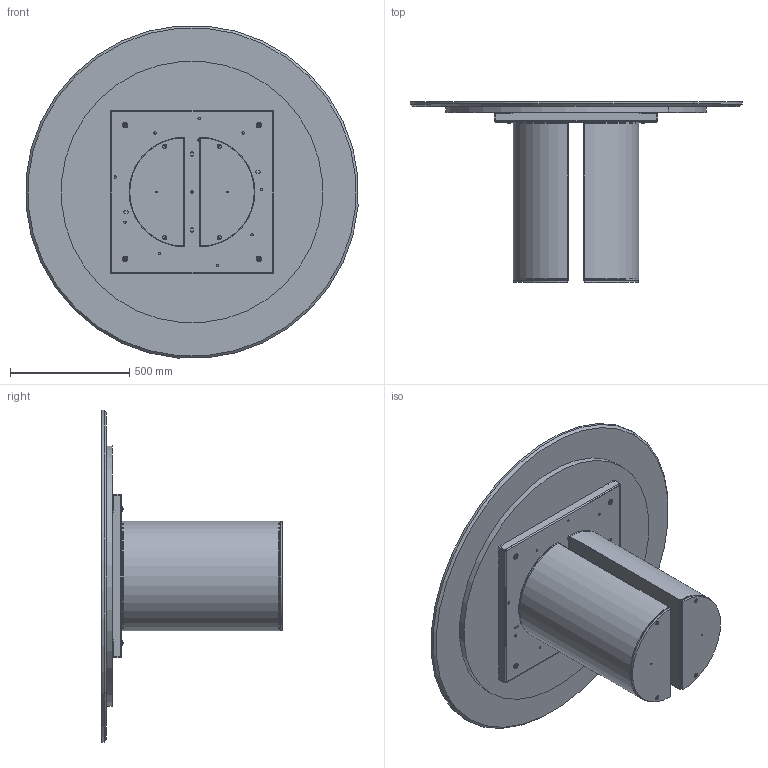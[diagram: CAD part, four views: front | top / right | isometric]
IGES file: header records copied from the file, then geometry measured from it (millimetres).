
Start section: SolidWorks IGES file using analytic representation for surfaces
Global section: file name: Y:\eforma\TECNICO\SOLIDWORKS\E-FORMA\1-TAVOLI\DORA\02 parts\DR06M.IGS; native system: SolidWorks 2022; preprocessor: SolidWorks 2022; author: eforma.tech; date: 240806.150009; units: millimetre
Bounding box: 1394.67 x 759 x 1394.67 mm (x, y, z)
Volume: 62172084.3 mm3; surface area: 10181807.2 mm2
Topology: 29 solids, 29 shells, 876 faces, 2168 edges, 1337 vertices
Faces by surface type: revolution 468, plane 408
